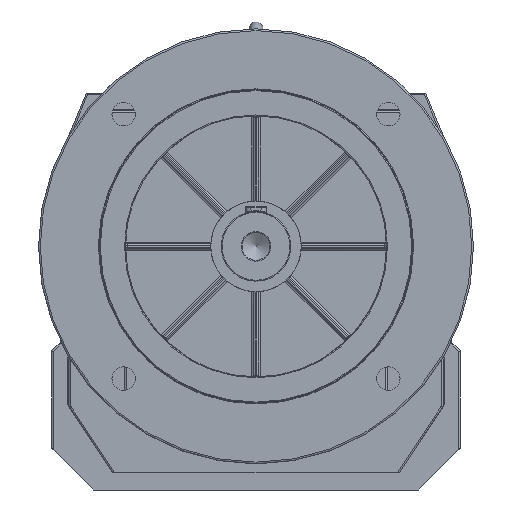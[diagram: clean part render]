
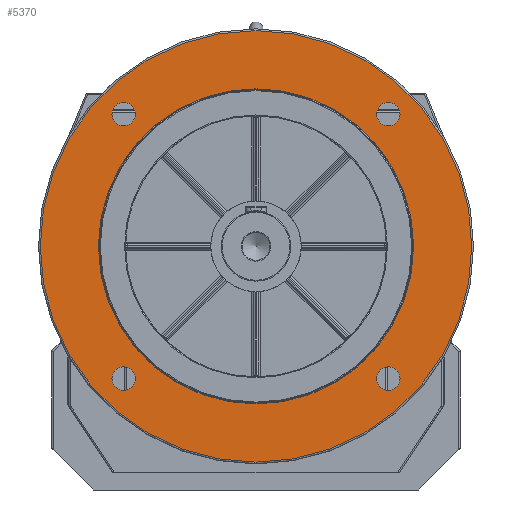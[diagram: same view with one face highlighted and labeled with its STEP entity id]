
A CAD part, front view. The second image highlights one B-rep face of the part: STEP entity #5370.
In plain terms, the highlighted planar face has unit normal (0, -1, 0).
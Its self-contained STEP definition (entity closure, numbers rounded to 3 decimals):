
#5292=CARTESIAN_POINT('',(0.0,-137.5,264.0));
#5293=VERTEX_POINT('',#5292);
#5294=CARTESIAN_POINT('',(0.0,-137.5,140.0));
#5295=DIRECTION('',(0.0,1.0,0.0));
#5296=DIRECTION('',(0.0,0.0,-1.0));
#5297=AXIS2_PLACEMENT_3D('',#5294,#5295,#5296);
#5298=CIRCLE('',#5297,124.0);
#5299=EDGE_CURVE('',#5293,#5293,#5298,.T.);
#5307=CARTESIAN_POINT('',(0.0,-137.5,247.5));
#5308=DIRECTION('',(0.0,-1.0,0.0));
#5309=DIRECTION('',(0.0,0.0,-1.0));
#5310=AXIS2_PLACEMENT_3D('',#5307,#5308,#5309);
#5311=PLANE('',#5310);
#5312=ORIENTED_EDGE('',*,*,#5299,.F.);
#5313=EDGE_LOOP('',(#5312));
#5314=FACE_OUTER_BOUND('',#5313,.T.);
#5315=CARTESIAN_POINT('',(0.,-137.5,230.5));
#5316=VERTEX_POINT('',#5315);
#5317=CARTESIAN_POINT('',(0.0,-137.5,140.0));
#5318=DIRECTION('',(0.0,-1.0,0.0));
#5319=DIRECTION('',(0.0,0.0,-1.0));
#5320=AXIS2_PLACEMENT_3D('',#5317,#5318,#5319);
#5321=CIRCLE('',#5320,90.5);
#5322=EDGE_CURVE('',#5316,#5316,#5321,.T.);
#5323=ORIENTED_EDGE('',*,*,#5322,.F.);
#5324=EDGE_LOOP('',(#5323));
#5325=FACE_BOUND('',#5324,.T.);
#5326=CARTESIAN_POINT('',(-69.264,-137.5,216.014));
#5327=VERTEX_POINT('',#5326);
#5328=CARTESIAN_POINT('',(-76.014,-137.5,216.014));
#5329=DIRECTION('',(0.0,1.0,0.0));
#5330=DIRECTION('',(1.0,0.0,0.0));
#5331=AXIS2_PLACEMENT_3D('',#5328,#5329,#5330);
#5332=CIRCLE('',#5331,6.75);
#5333=EDGE_CURVE('',#5327,#5327,#5332,.T.);
#5334=ORIENTED_EDGE('',*,*,#5333,.T.);
#5335=EDGE_LOOP('',(#5334));
#5336=FACE_BOUND('',#5335,.T.);
#5337=CARTESIAN_POINT('',(82.764,-137.5,216.014));
#5338=VERTEX_POINT('',#5337);
#5339=CARTESIAN_POINT('',(76.014,-137.5,216.014));
#5340=DIRECTION('',(0.0,1.0,0.0));
#5341=DIRECTION('',(1.0,0.0,0.0));
#5342=AXIS2_PLACEMENT_3D('',#5339,#5340,#5341);
#5343=CIRCLE('',#5342,6.75);
#5344=EDGE_CURVE('',#5338,#5338,#5343,.T.);
#5345=ORIENTED_EDGE('',*,*,#5344,.T.);
#5346=EDGE_LOOP('',(#5345));
#5347=FACE_BOUND('',#5346,.T.);
#5348=CARTESIAN_POINT('',(82.764,-137.5,63.986));
#5349=VERTEX_POINT('',#5348);
#5350=CARTESIAN_POINT('',(76.014,-137.5,63.986));
#5351=DIRECTION('',(0.0,1.0,0.0));
#5352=DIRECTION('',(1.0,0.0,0.0));
#5353=AXIS2_PLACEMENT_3D('',#5350,#5351,#5352);
#5354=CIRCLE('',#5353,6.75);
#5355=EDGE_CURVE('',#5349,#5349,#5354,.T.);
#5356=ORIENTED_EDGE('',*,*,#5355,.T.);
#5357=EDGE_LOOP('',(#5356));
#5358=FACE_BOUND('',#5357,.T.);
#5359=CARTESIAN_POINT('',(-69.264,-137.5,63.986));
#5360=VERTEX_POINT('',#5359);
#5361=CARTESIAN_POINT('',(-76.014,-137.5,63.986));
#5362=DIRECTION('',(0.0,1.0,0.0));
#5363=DIRECTION('',(1.0,0.0,0.0));
#5364=AXIS2_PLACEMENT_3D('',#5361,#5362,#5363);
#5365=CIRCLE('',#5364,6.75);
#5366=EDGE_CURVE('',#5360,#5360,#5365,.T.);
#5367=ORIENTED_EDGE('',*,*,#5366,.T.);
#5368=EDGE_LOOP('',(#5367));
#5369=FACE_BOUND('',#5368,.T.);
#5370=ADVANCED_FACE('',(#5314,#5325,#5336,#5347,#5358,#5369),#5311,.T.);
